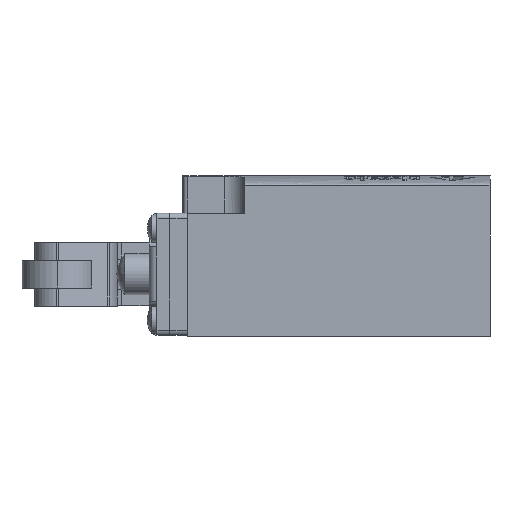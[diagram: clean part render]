
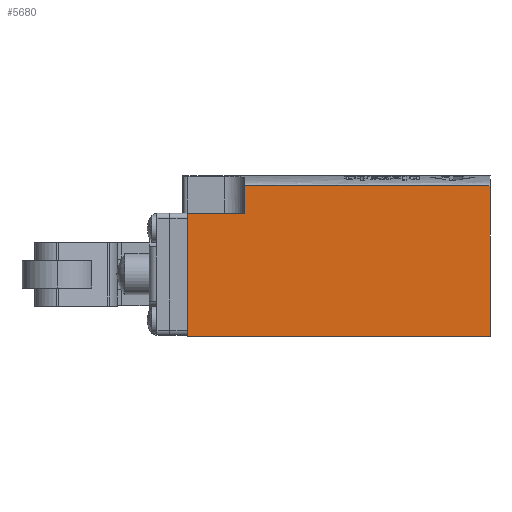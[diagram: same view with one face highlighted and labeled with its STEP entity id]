
A CAD part, left-side view. The second image highlights one B-rep face of the part: STEP entity #5680.
In plain terms, the highlighted planar face has unit normal (-1, 0, 0).
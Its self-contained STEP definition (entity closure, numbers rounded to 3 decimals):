
#811 = DIRECTION ( 'NONE',  ( 0., 0., -1. ) ) ;
#848 = EDGE_CURVE ( 'NONE', #16297, #5030, #11013, .T. ) ;
#930 = ORIENTED_EDGE ( 'NONE', *, *, #5476, .F. ) ;
#1029 = EDGE_CURVE ( 'NONE', #16297, #4258, #9619, .T. ) ;
#2017 = FACE_OUTER_BOUND ( 'NONE', #7376, .T. ) ;
#2128 = CARTESIAN_POINT ( 'NONE',  ( -15.6, 0.633, 17.4 ) ) ;
#2196 = CARTESIAN_POINT ( 'NONE',  ( -15.6, -31.5, 19.4 ) ) ;
#2510 = CARTESIAN_POINT ( 'NONE',  ( -15.6, 16.7, 17.4 ) ) ;
#3182 = ORIENTED_EDGE ( 'NONE', *, *, #1029, .T. ) ;
#3431 = CARTESIAN_POINT ( 'NONE',  ( -15.6, 16.7, 12. ) ) ;
#3823 = DIRECTION ( 'NONE',  ( 0., -1., 0. ) ) ;
#3878 = CARTESIAN_POINT ( 'NONE',  ( -15.6, -15.433, 17.4 ) ) ;
#3967 = CARTESIAN_POINT ( 'NONE',  ( -15.6, -31.5, 17.4 ) ) ;
#4055 = DIRECTION ( 'NONE',  ( 0., 0., 1. ) ) ;
#4258 = VERTEX_POINT ( 'NONE', #12108 ) ;
#4807 = VERTEX_POINT ( 'NONE', #12185 ) ;
#4832 = EDGE_CURVE ( 'NONE', #4258, #4807, #15201, .T. ) ;
#5030 = VERTEX_POINT ( 'NONE', #3431 ) ;
#5282 = ORIENTED_EDGE ( 'NONE', *, *, #4832, .T. ) ;
#5420 = VECTOR ( 'NONE', #13733, 1000. ) ;
#5476 = EDGE_CURVE ( 'NONE', #5030, #5847, #14617, .T. ) ;
#5680 = ADVANCED_FACE ( 'NONE', ( #2017 ), #15499, .F. ) ;
#5847 = VERTEX_POINT ( 'NONE', #18240 ) ;
#5928 = EDGE_CURVE ( 'NONE', #7311, #5847, #18997, .T. ) ;
#6471 = ORIENTED_EDGE ( 'NONE', *, *, #14953, .F. ) ;
#6656 = DIRECTION ( 'NONE',  ( 0., 1., 0. ) ) ;
#6963 = CARTESIAN_POINT ( 'NONE',  ( -15.6, 16.7, 12. ) ) ;
#7311 = VERTEX_POINT ( 'NONE', #18799 ) ;
#7376 = EDGE_LOOP ( 'NONE', ( #6471, #16054, #930, #18692, #3182, #5282 ) ) ;
#7479 = VECTOR ( 'NONE', #9914, 1000. ) ;
#7817 = CARTESIAN_POINT ( 'NONE',  ( -15.6, -31.5, -12.2 ) ) ;
#9269 = DIRECTION ( 'NONE',  ( 1., 0., 0. ) ) ;
#9619 = LINE ( 'NONE', #14076, #14321 ) ;
#9914 = DIRECTION ( 'NONE',  ( 0., 0., -1. ) ) ;
#11013 = LINE ( 'NONE', #16922, #14628 ) ;
#11558 = LINE ( 'NONE', #11655, #7479 ) ;
#11655 = CARTESIAN_POINT ( 'NONE',  ( -15.6, -31.5, 19.4 ) ) ;
#12108 = CARTESIAN_POINT ( 'NONE',  ( -15.6, 28., -12.2 ) ) ;
#12185 = CARTESIAN_POINT ( 'NONE',  ( -15.6, -31.5, -12.2 ) ) ;
#13733 = DIRECTION ( 'NONE',  ( 0., -1., 0. ) ) ;
#13785 = AXIS2_PLACEMENT_3D ( 'NONE', #2196, #9269, #6656 ) ;
#14076 = CARTESIAN_POINT ( 'NONE',  ( -15.6, 28., 19.4 ) ) ;
#14321 = VECTOR ( 'NONE', #811, 1000. ) ;
#14617 = LINE ( 'NONE', #6963, #15021 ) ;
#14628 = VECTOR ( 'NONE', #3823, 1000. ) ;
#14953 = EDGE_CURVE ( 'NONE', #7311, #4807, #11558, .T. ) ;
#15021 = VECTOR ( 'NONE', #4055, 1000. ) ;
#15201 = LINE ( 'NONE', #7817, #5420 ) ;
#15499 = PLANE ( 'NONE',  #13785 ) ;
#15568 = CARTESIAN_POINT ( 'NONE',  ( -15.6, 28., 12. ) ) ;
#16054 = ORIENTED_EDGE ( 'NONE', *, *, #5928, .T. ) ;
#16297 = VERTEX_POINT ( 'NONE', #15568 ) ;
#16922 = CARTESIAN_POINT ( 'NONE',  ( -15.6, 28., 12. ) ) ;
#18240 = CARTESIAN_POINT ( 'NONE',  ( -15.6, 16.7, 17.4 ) ) ;
#18692 = ORIENTED_EDGE ( 'NONE', *, *, #848, .F. ) ;
#18799 = CARTESIAN_POINT ( 'NONE',  ( -15.6, -31.5, 17.4 ) ) ;
#18997 = B_SPLINE_CURVE_WITH_KNOTS ( 'NONE', 3,
 ( #3967, #3878, #2128, #2510 ),
 .UNSPECIFIED., .F., .F.,
 ( 4, 4 ),
 ( 0., 1. ),
 .UNSPECIFIED. ) ;
